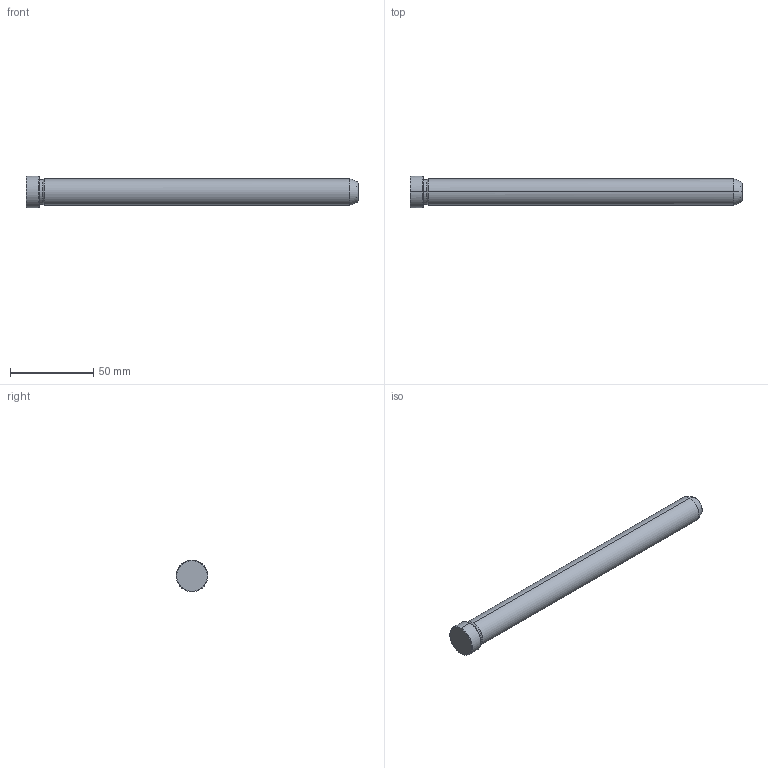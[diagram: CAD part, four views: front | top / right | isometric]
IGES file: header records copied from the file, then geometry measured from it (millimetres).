
Start section: START RECORD GO HERE.
Global section: file name: 549-16X200.igs; native system: DASSAULT SYSTEMES CATIA V5 R20 - www.3ds.com; preprocessor: CATIA Version 5 Release 20 ; author: Utente; organization: NB04-ASUS; date: 20211211.103644; units: millimetre
Bounding box: 200 x 19 x 19 mm (x, y, z)
Surface area: 10588.1 mm2 (no closed solid volume)
Topology: 0 solids, 0 shells, 19 faces, 112 edges, 112 vertices
Faces by surface type: revolution 16, plane 3
